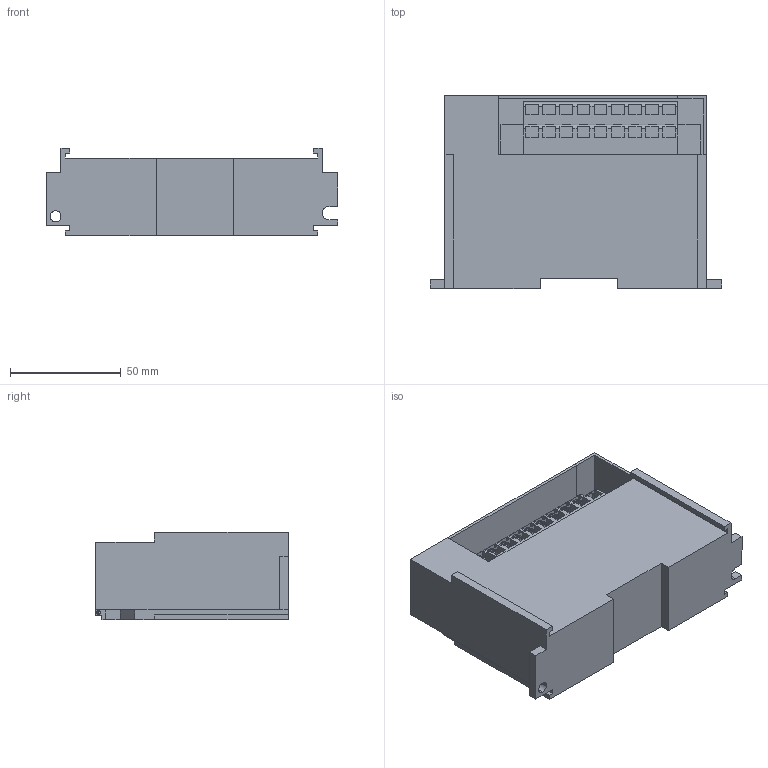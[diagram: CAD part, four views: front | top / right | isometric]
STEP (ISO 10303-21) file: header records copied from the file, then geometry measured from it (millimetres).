
FILE_DESCRIPTION (( 'STEP AP203' ), '1' );
FILE_NAME ('1769-OF4IH.STEP', '2022-06-17T15:44:06', ( '' ), ( '' ), 'SwSTEP 2.0', 'SolidWorks 2021', '' );
FILE_SCHEMA (( 'CONFIG_CONTROL_DESIGN' ));
Length unit declared in the file: millimetre
Products named in the file (3): MR-Terminal-Block-Block; 1769-IO_CASE; 1769-OF4IH
Assembly tree (2 placements, depth 2):
  1769-OF4IH
    1769-IO_CASE
    MR-Terminal-Block-Block
Bounding box: 131.7 x 87.1 x 39.5 mm (x, y, z)
Volume: 308169.9 mm3; surface area: 58534.6 mm2
Topology: 18 solids, 18 shells, 534 faces, 1485 edges, 983 vertices
Faces by surface type: plane 426, cylinder 66, bspline 38, sphere 4
Entity records: 19639 total; most frequent: CARTESIAN_POINT 5757, ORIENTED_EDGE 2954, DIRECTION 2544, EDGE_CURVE 1477, VECTOR 1188, LINE 1188, VERTEX_POINT 979, AXIS2_PLACEMENT_3D 678
